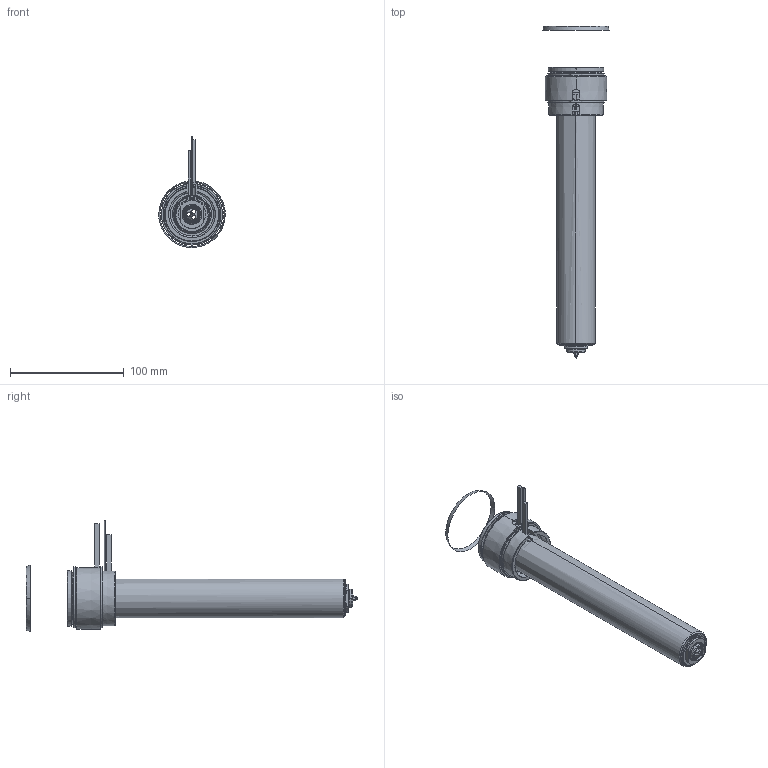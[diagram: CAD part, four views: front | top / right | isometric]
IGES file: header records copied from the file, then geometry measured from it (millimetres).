
Start section: SolidWorks IGES file using analytic representation for surfaces
Global section: file name: C:\Documents and Settings\ws-20\Desktop\TEM\UGEP5505-S-A-0 [Øf-1.18 ØC-13].IGS; native system: SolidWorks 2012; preprocessor: SolidWorks 2012; author: ws-20; date: 120427.082150; units: millimetre
Bounding box: 58.57 x 292.24 x 97.91 mm (x, y, z)
Surface area: 106846.8 mm2 (no closed solid volume)
Topology: 0 solids, 0 shells, 178 faces, 3607 edges, 3607 vertices
Faces by surface type: revolution 115, bspline 63
